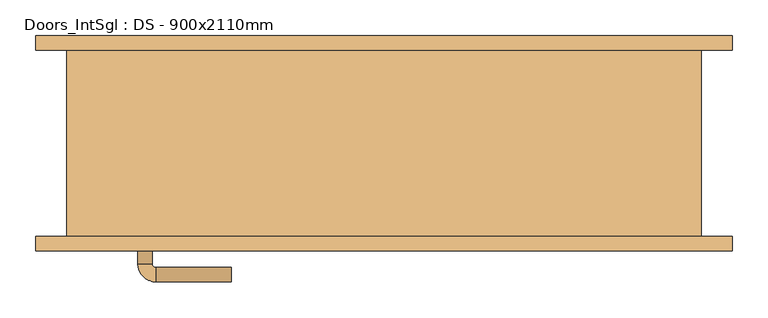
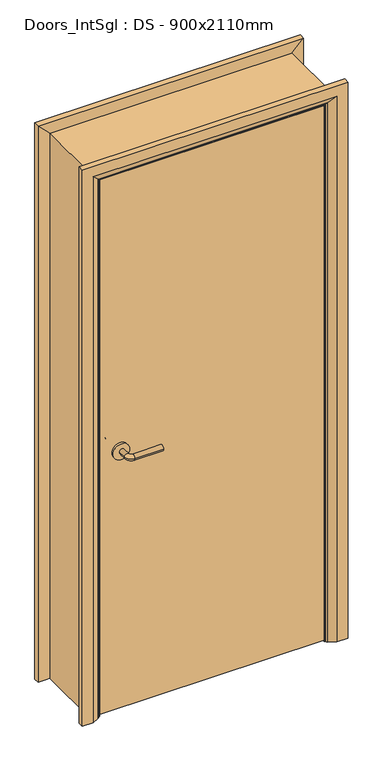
"""IFC4 building model written with IfcOpenShell, lengths in millimetres: door geometry, Doors_IntSgl : DS - 900x2110mm."""

import ifcopenshell
import ifcopenshell.guid

model = None  # the IFC model being written
_history = None  # IfcOwnerHistory: only IFC2X3 demands one
_inside = {}  # id of a spatial element -> (the spatial element, [elements in it])
_under = {}  # id of a project, library or spatial element -> (it, [spatial elements below it])
_declared = {}  # id of a project -> (the project, [libraries it declares])
_typed = {}  # id of a type object -> (the type object, [elements of that type])
_made_of = {}  # id of a material, layer set ... -> (it, [elements and type objects made of it])


def new_model(schema):
    """Start an empty IFC model of exactly this schema.

    Asked for "IFC4X3", IfcOpenShell would pick the latest addendum, in which some entities
    have other attributes; the version numbers below select the first issue.
    IFC2X3 requires an IfcOwnerHistory on every rooted entity: one is made here for all.
    """
    global model, _history
    if schema == "IFC4X3":
        model = ifcopenshell.file(schema_version=(4, 3, 0, 0))
    else:
        model = ifcopenshell.file(schema=schema)
    _inside.clear()
    _under.clear()
    _declared.clear()
    _typed.clear()
    _made_of.clear()
    _history = None
    if model.schema == "IFC2X3":
        org = make("IfcOrganization", Name="unknown")
        user = make(
            "IfcPersonAndOrganization",
            ThePerson=make("IfcPerson", FamilyName="unknown"),
            TheOrganization=org,
        )
        app = make(
            "IfcApplication",
            ApplicationDeveloper=org,
            Version="unknown",
            ApplicationFullName="unknown",
            ApplicationIdentifier="unknown",
        )
        _history = make(
            "IfcOwnerHistory",
            OwningUser=user,
            OwningApplication=app,
            ChangeAction="ADDED",
            CreationDate=0,
        )
    return model


def make(cls, **values):
    """One entity of the class cls with the attributes given. An attribute that is None is left unset."""
    return model.create_entity(
        cls, **{name: value for name, value in values.items() if value is not None}
    )


def rooted(cls, **values):
    """An entity with a GlobalId (a new one), such as an element, a storey or a relation."""
    return make(cls, GlobalId=ifcopenshell.guid.new(), OwnerHistory=_history, **values)


def si_unit(unit_type, name, prefix=None):
    """IfcSIUnit, for example si_unit("LENGTHUNIT", "METRE", prefix="MILLI")."""
    return make("IfcSIUnit", UnitType=unit_type, Prefix=prefix, Name=name)


def assignment(units):
    """IfcUnitAssignment: the units of a project."""
    return None if units is None else make("IfcUnitAssignment", Units=units)


def point(xyz):
    """IfcCartesianPoint."""
    return None if xyz is None else make("IfcCartesianPoint", Coordinates=xyz)


def direction(xyz):
    """IfcDirection."""
    return None if xyz is None else make("IfcDirection", DirectionRatios=xyz)


def frame(location, z_axis=None, x_axis=None):
    """IfcAxis2Placement3D, a coordinate frame: its origin and axes. An axis left out is left unset."""
    return make(
        "IfcAxis2Placement3D",
        Location=point(location),
        Axis=direction(z_axis),
        RefDirection=direction(x_axis),
    )


def frame_2d(location, x_axis=None):
    """IfcAxis2Placement2D, a coordinate frame in the plane: its origin and x axis."""
    return make(
        "IfcAxis2Placement2D", Location=point(location), RefDirection=direction(x_axis)
    )


def origin():
    """The frame at (0, 0, 0) with its axes left unset."""
    return frame((0.0, 0.0, 0.0))


def place(relative_to, where):
    """IfcLocalPlacement: puts the frame where relative to a parent placement (None: the world)."""
    return make(
        "IfcLocalPlacement", PlacementRelTo=relative_to, RelativePlacement=where
    )


def context(
    kind, dimensions, precision=None, world=None, true_north=None, identifier=None
):
    """IfcGeometricRepresentationContext, for example the 3D "Model" context."""
    return make(
        "IfcGeometricRepresentationContext",
        ContextIdentifier=identifier,
        ContextType=kind,
        CoordinateSpaceDimension=dimensions,
        Precision=precision,
        WorldCoordinateSystem=world,
        TrueNorth=true_north,
    )


def project(units=None, contexts=None):
    """IfcProject with its units and contexts."""
    return rooted(
        "IfcProject",
        Name="project",
        RepresentationContexts=contexts,
        UnitsInContext=assignment(units),
    )


def spatial(cls, under=None, at=None, **own):
    """A site, building, storey or space (cls), placed at a placement, below another one or the project."""
    s = rooted(cls, ObjectPlacement=at, **own)
    if under is not None:
        _under.setdefault(under.id(), (under, []))[1].append(s)
    return s


def polyline(points):
    """IfcPolyline through the points."""
    return make("IfcPolyline", Points=[point(p) for p in points])


def circle_curve(where, radius):
    """IfcCircle in the frame where."""
    return make("IfcCircle", Position=where, Radius=radius)


def ellipse_curve(where, semi_axis1, semi_axis2):
    """IfcEllipse in the frame where."""
    return make(
        "IfcEllipse", Position=where, SemiAxis1=semi_axis1, SemiAxis2=semi_axis2
    )


def trimmed(basis, trim1, trim2, sense, master):
    """IfcTrimmedCurve: the piece of a basis curve between two trims."""
    return make(
        "IfcTrimmedCurve",
        BasisCurve=basis,
        Trim1=trim1,
        Trim2=trim2,
        SenseAgreement=sense,
        MasterRepresentation=master,
    )


def segment(curve, same_sense, transition):
    """IfcCompositeCurveSegment."""
    return make(
        "IfcCompositeCurveSegment",
        Transition=transition,
        SameSense=same_sense,
        ParentCurve=curve,
    )


def composite_curve(segments, self_intersect=None):
    """IfcCompositeCurve: segments joined end to end."""
    return make("IfcCompositeCurve", Segments=segments, SelfIntersect=self_intersect)


def outline(outer, holes=None, kind="AREA"):
    """IfcArbitraryClosedProfileDef: a profile drawn as a closed curve; with holes, ...WithVoids."""
    if holes is None:
        return make("IfcArbitraryClosedProfileDef", ProfileType=kind, OuterCurve=outer)
    return make(
        "IfcArbitraryProfileDefWithVoids",
        ProfileType=kind,
        OuterCurve=outer,
        InnerCurves=holes,
    )


def extrude(swept, where, along, depth):
    """IfcExtrudedAreaSolid: the profile swept, set in the frame where, extruded along a direction by depth."""
    return make(
        "IfcExtrudedAreaSolid",
        SweptArea=swept,
        Position=where,
        ExtrudedDirection=direction(along),
        Depth=depth,
    )


def faces_of(points, faces, orient=None, outer=None):
    """IfcFace entities. A face is a list of loops; a loop is a list of indices into points, from 0.

    orient and outer hold one flag for each loop. By default every Orientation is true, the
    first loop of a face is its IfcFaceOuterBound and the others are IfcFaceBound.
    """
    made = []
    for i, loops in enumerate(faces):
        bounds = []
        for j, loop in enumerate(loops):
            is_outer = j == 0 if outer is None else outer[i][j]
            bounds.append(
                make(
                    "IfcFaceOuterBound" if is_outer else "IfcFaceBound",
                    Bound=make("IfcPolyLoop", Polygon=[points[k] for k in loop]),
                    Orientation=True if orient is None else orient[i][j],
                )
            )
        made.append(make("IfcFace", Bounds=bounds))
    return made


def faceted_brep(points, faces, orient=None, outer=None, voids=None):
    """IfcFacetedBrep: a solid bounded by flat faces; with voids (closed shells), ...WithVoids."""
    shared = [point(p) for p in points]
    hull = make("IfcClosedShell", CfsFaces=faces_of(shared, faces, orient, outer))
    if voids is None:
        return make("IfcFacetedBrep", Outer=hull)
    return make(
        "IfcFacetedBrepWithVoids",
        Outer=hull,
        Voids=[
            make(cls, CfsFaces=faces_of(shared, fs, o, b)) for cls, fs, o, b in voids
        ],
    )


def shape(context_of_items, identifier, shape_type, items):
    """IfcShapeRepresentation: the items that make up one representation, for example the "Body"."""
    return make(
        "IfcShapeRepresentation",
        ContextOfItems=context_of_items,
        RepresentationIdentifier=identifier,
        RepresentationType=shape_type,
        Items=items,
    )


def source(mapping_origin, context_of_items, identifier, shape_type, items):
    """IfcRepresentationMap: a shape defined once, which mapped items show again and again."""
    return make(
        "IfcRepresentationMap",
        MappingOrigin=mapping_origin,
        MappedRepresentation=shape(context_of_items, identifier, shape_type, items),
    )


def transform(
    local_origin,
    x_axis=None,
    y_axis=None,
    z_axis=None,
    scale=None,
    scale2=None,
    scale3=None,
    uniform=True,
):
    """IfcCartesianTransformationOperator3D, or its non-uniform kind. x_axis, y_axis, z_axis: its Axis1, 2, 3."""
    if uniform:
        return make(
            "IfcCartesianTransformationOperator3D",
            Axis1=direction(x_axis),
            Axis2=direction(y_axis),
            LocalOrigin=point(local_origin),
            Scale=scale,
            Axis3=direction(z_axis),
        )
    return make(
        "IfcCartesianTransformationOperator3DnonUniform",
        Axis1=direction(x_axis),
        Axis2=direction(y_axis),
        LocalOrigin=point(local_origin),
        Scale=scale,
        Axis3=direction(z_axis),
        Scale2=scale2,
        Scale3=scale3,
    )


def mapped(mapping_source, mapping_target):
    """IfcMappedItem: shows the shape of a source again, moved by a transform."""
    return make(
        "IfcMappedItem", MappingSource=mapping_source, MappingTarget=mapping_target
    )


def made_of(thing, what):
    """Note that an element or type object is made of a material, layer set ...; save() writes the relation."""
    if what is not None:
        _made_of.setdefault(what.id(), (what, []))[1].append(thing)
    return thing


def element(
    cls,
    number,
    at=None,
    inside=None,
    cuts=None,
    type_object=None,
    material=None,
    context=None,
    identifier="Body",
    shape_type=None,
    held_by="IfcProductDefinitionShape",
    body=None,
    shapes=None,
    **own,
):
    """One element of the class cls, such as IfcWall. Its Tag is "e" and its number.

    at: its placement. inside: the storey or other place that contains it. cuts: it is an
    opening in that element (IfcRelVoidsElement). A single representation is given by context,
    identifier, shape_type and body (its items); several are given by shapes. held_by: the class
    of the entity that holds the representations. save() writes the other relations.
    """
    e = rooted(cls, Tag="e%d" % number, ObjectPlacement=at, **own)
    if body is not None:
        shapes = [shape(context, identifier, shape_type, body)]
    if shapes is not None:
        e.Representation = make(held_by, Representations=shapes)
    if inside is not None:
        _inside.setdefault(inside.id(), (inside, []))[1].append(e)
    if cuts is not None:
        rooted(
            "IfcRelVoidsElement", RelatingBuildingElement=cuts, RelatedOpeningElement=e
        )
    if type_object is not None:
        _typed.setdefault(type_object.id(), (type_object, []))[1].append(e)
    return made_of(e, material)


def aggregate(whole, parts):
    """IfcRelAggregates: a whole, such as a stair, and the parts it consists of."""
    return rooted("IfcRelAggregates", RelatingObject=whole, RelatedObjects=parts)


def save(model, path):
    """Write the relations noted so far, then the file.

    IfcRelAggregates (storeys below a building ...), IfcRelContainedInSpatialStructure (elements
    in a storey), IfcRelDefinesByType, IfcRelAssociatesMaterial and IfcRelDeclares: one each for
    every whole, place, type object, material and project.
    """
    for whole, parts in _under.values():
        aggregate(whole, parts)
    for where, things in _inside.values():
        rooted(
            "IfcRelContainedInSpatialStructure",
            RelatedElements=things,
            RelatingStructure=where,
        )
    for kind, things in _typed.values():
        rooted("IfcRelDefinesByType", RelatedObjects=things, RelatingType=kind)
    for what, things in _made_of.values():
        rooted("IfcRelAssociatesMaterial", RelatedObjects=things, RelatingMaterial=what)
    for by, libraries in _declared.values():
        rooted("IfcRelDeclares", RelatingContext=by, RelatedDefinitions=libraries)
    model.write(path)


def plane_surface(at):
    """IfcPlane: the flat surface through the origin of the frame at, square to its z axis."""
    return make("IfcPlane", Position=at)


def cylinder_surface(at, radius):
    """IfcCylindricalSurface: all points at the distance radius from the z axis of the frame at."""
    return make("IfcCylindricalSurface", Position=at, Radius=radius)


def revolved_surface(curve, axis_point, axis_direction):
    """IfcSurfaceOfRevolution: the curve turned about the line through axis_point along axis_direction."""
    return make(
        "IfcSurfaceOfRevolution",
        SweptCurve=make("IfcArbitraryOpenProfileDef", ProfileType="CURVE", Curve=curve),
        AxisPosition=make("IfcAxis1Placement", Location=point(axis_point), Axis=direction(axis_direction)),
    )


def advanced_brep(points, edges, surfaces, faces):
    """IfcAdvancedBrep: a solid bounded by faces that lie on surfaces and meet in shared edges.

    An edge is (start, end): straight between two places in points (the first is 0);
    or (start, end, curve); or (start, end, curve, False) where it runs against its curve.
    A face is (place in surfaces, loops), or (place, loops, False) where it looks against
    its surface's normal. A loop lists edges by number (the first is 1), with a minus sign
    where the edge is run from its end to its start. The first loop is the outer one.
    """
    corners = [point(p) for p in points]
    vertices = [make("IfcVertexPoint", VertexGeometry=c) for c in corners]
    made = []
    for start, end, *more in edges:
        made.append(
            make(
                "IfcEdgeCurve",
                EdgeStart=vertices[start],
                EdgeEnd=vertices[end],
                EdgeGeometry=more[0] if more else make("IfcPolyline", Points=[corners[start], corners[end]]),
                SameSense=more[1] if len(more) > 1 else True,
            )
        )
    hull = []
    for where, loops, *sense in faces:
        bounds = []
        for j, loop in enumerate(loops):
            ring = [make("IfcOrientedEdge", EdgeElement=made[abs(k) - 1], Orientation=k > 0) for k in loop]
            bounds.append(
                make(
                    "IfcFaceOuterBound" if j == 0 else "IfcFaceBound",
                    Bound=make("IfcEdgeLoop", EdgeList=ring),
                    Orientation=True,
                )
            )
        hull.append(make("IfcAdvancedFace", Bounds=bounds, FaceSurface=surfaces[where], SameSense=sense[0] if sense else True))
    return make("IfcAdvancedBrep", Outer=make("IfcClosedShell", CfsFaces=hull))


def doors_intsgl_ds_900x2110mm_d1397bd0(model_context):
    return source(origin(), model_context, "Body", "SolidModel", [
        advanced_brep(
        [(-343.0, -84.0, 1000.0), (-323.0, -84.0, 1000.0), (-343.0, -54.0, 1000.0), (-323.0, -54.0, 1000.0), (-318.0, -49.0, 1000.0), (-318.0, -29.0, 1000.0), (-213.0, -29.0, 1000.0), (-213.0, -49.0, 1000.0)],
        [
            (0, 1, circle_curve(frame((-333.0, -84.0, 1000.0), z_axis=(0.0, -1.0, 0.0), x_axis=(1.0, 0.0, 0.0)), 10.0)),
            (1, 0, circle_curve(frame((-333.0, -84.0, 1000.0), z_axis=(0.0, -1.0, 0.0), x_axis=(1.0, 0.0, 0.0)), 10.0)),
            (0, 2),
            (2, 3, circle_curve(frame((-333.0, -54.0, 1000.0), z_axis=(0.0, -1.0, 0.0), x_axis=(1.0, 0.0, 0.0)), 10.0)),
            (3, 1),
            (3, 2, circle_curve(frame((-333.0, -54.0, 1000.0), z_axis=(0.0, -1.0, 0.0), x_axis=(1.0, 0.0, 0.0)), 10.0)),
            (4, 3, circle_curve(frame((-318.0, -54.0, 1000.0), z_axis=(0.0, 0.0, 1.0), x_axis=(-1.0, 0.0, 0.0)), 5.0)),
            (2, 5, circle_curve(frame((-318.0, -54.0, 1000.0), z_axis=(0.0, 0.0, -1.0), x_axis=(-1.0, 0.0, 0.0)), 25.0)),
            (5, 4, circle_curve(frame((-318.0, -39.0, 1000.0), z_axis=(-1.0, 0.0, 0.0), x_axis=(0.0, -1.0, 0.0)), 10.0)),
            (4, 5, circle_curve(frame((-318.0, -39.0, 1000.0), z_axis=(-1.0, 0.0, 0.0), x_axis=(0.0, -1.0, 0.0)), 10.0)),
            (6, 7, circle_curve(frame((-213.0, -39.0, 1000.0), z_axis=(1.0, 0.0, 0.0), x_axis=(0.0, -1.0, 0.0)), 10.0)),
            (7, 6, circle_curve(frame((-213.0, -39.0, 1000.0), z_axis=(1.0, 0.0, 0.0), x_axis=(0.0, -1.0, 0.0)), 10.0)),
            (5, 6),
            (7, 4),
        ],
        [
            plane_surface(frame((-333.0, -84.0, 1000.0), z_axis=(0.0, -1.0, 0.0), x_axis=(0.0, 0.0, 1.0))),
            cylinder_surface(frame((-333.0, -84.0, 1000.0), z_axis=(0.0, -1.0, 0.0), x_axis=(1.0, 0.0, 0.0)), 10.0),
            revolved_surface(trimmed(ellipse_curve(frame((-333.0, -54.0, 1000.0), z_axis=(0.0, -1.0, 0.0), x_axis=(1.0, 0.0, 0.0)), 10.0, 10.0), [point((-343.0, -54.0, 1000.0))], [point((-323.0, -54.0, 1000.0))], True, "CARTESIAN"), (-318.0, -54.0, 1000.0), (0.0, 0.0, -1.0)),
            revolved_surface(trimmed(ellipse_curve(frame((-333.0, -54.0, 1000.0), z_axis=(0.0, -1.0, 0.0), x_axis=(1.0, 0.0, 0.0)), 10.0, 10.0), [point((-323.0, -54.0, 1000.0))], [point((-343.0, -54.0, 1000.0))], True, "CARTESIAN"), (-318.0, -54.0, 1000.0), (0.0, 0.0, -1.0)),
            plane_surface(frame((-213.0, -39.0, 1000.0), z_axis=(1.0, 0.0, 0.0), x_axis=(0.0, 0.0, 1.0))),
            cylinder_surface(frame((-318.0, -39.0, 1000.0), z_axis=(-1.0, 0.0, 0.0), x_axis=(0.0, -1.0, 0.0)), 10.0),
        ],
        [
            (0, [[1, 2]]),
            (1, [[-1, 3, 4, 5]]),
            (1, [[-2, -5, 6, -3]]),
            (2, [[7, -4, 8, 9]]),
            (3, [[-8, -6, -7, 10]]),
            (4, [[11, 12]]),
            (5, [[-9, 13, -12, 14]]),
            (5, [[-10, -14, -11, -13]]),
        ],
    ),
        extrude(outline(composite_curve([segment(trimmed(circle_curve(frame_2d((1000.0, -335.5)), 30.0), [point((1000.0, -365.5))], [point((1000.0, -305.5))], False, "CARTESIAN"), True, "CONTINUOUS"), segment(trimmed(circle_curve(frame_2d((1000.0, -335.5)), 30.0), [point((1000.0, -305.5))], [point((1000.0, -365.5))], False, "CARTESIAN"), True, "CONTINUOUS")], self_intersect=False)), frame((0.0, -92.0, 0.0), z_axis=(0.0, 1.0, 0.0), x_axis=(0.0, 0.0, 1.0)), (0.0, 0.0, 1.0), 8.0),
        advanced_brep(
        [(-343.0, -138.0, 1000.0), (-323.0, -138.0, 1000.0), (-323.0, -168.0, 1000.0), (-343.0, -168.0, 1000.0), (-318.0, -173.0, 1000.0), (-318.0, -193.0, 1000.0), (-213.0, -193.0, 1000.0), (-213.0, -173.0, 1000.0)],
        [
            (0, 1, circle_curve(frame((-333.0, -138.0, 1000.0), z_axis=(0.0, 1.0, 0.0), x_axis=(1.0, 0.0, 0.0)), 10.0)),
            (1, 0, circle_curve(frame((-333.0, -138.0, 1000.0), z_axis=(0.0, 1.0, 0.0), x_axis=(1.0, 0.0, 0.0)), 10.0)),
            (1, 2),
            (2, 3, circle_curve(frame((-333.0, -168.0, 1000.0), z_axis=(0.0, 1.0, 0.0), x_axis=(1.0, 0.0, 0.0)), 10.0)),
            (3, 0),
            (3, 2, circle_curve(frame((-333.0, -168.0, 1000.0), z_axis=(0.0, 1.0, 0.0), x_axis=(1.0, 0.0, 0.0)), 10.0)),
            (4, 5, circle_curve(frame((-318.0, -183.0, 1000.0), z_axis=(-1.0, 0.0, 0.0), x_axis=(0.0, 1.0, 0.0)), 10.0)),
            (5, 3, circle_curve(frame((-318.0, -168.0, 1000.0), z_axis=(0.0, 0.0, -1.0), x_axis=(-1.0, 0.0, 0.0)), 25.0)),
            (2, 4, circle_curve(frame((-318.0, -168.0, 1000.0), z_axis=(0.0, 0.0, 1.0), x_axis=(-1.0, 0.0, 0.0)), 5.0)),
            (5, 4, circle_curve(frame((-318.0, -183.0, 1000.0), z_axis=(-1.0, 0.0, 0.0), x_axis=(0.0, 1.0, 0.0)), 10.0)),
            (6, 7, circle_curve(frame((-213.0, -183.0, 1000.0), z_axis=(1.0, 0.0, 0.0), x_axis=(0.0, 1.0, 0.0)), 10.0)),
            (7, 6, circle_curve(frame((-213.0, -183.0, 1000.0), z_axis=(1.0, 0.0, 0.0), x_axis=(0.0, 1.0, 0.0)), 10.0)),
            (4, 7),
            (6, 5),
        ],
        [
            plane_surface(frame((-333.0, -138.0, 1000.0), z_axis=(0.0, 1.0, 0.0), x_axis=(0.0, 0.0, 1.0))),
            cylinder_surface(frame((-333.0, -138.0, 1000.0), z_axis=(0.0, 1.0, 0.0), x_axis=(1.0, 0.0, 0.0)), 10.0),
            revolved_surface(trimmed(ellipse_curve(frame((-333.0, -168.0, 1000.0), z_axis=(0.0, -1.0, 0.0), x_axis=(1.0, 0.0, 0.0)), 10.0, 10.0), [point((-343.0, -168.0, 1000.0))], [point((-323.0, -168.0, 1000.0))], True, "CARTESIAN"), (-318.0, -168.0, 1000.0), (0.0, 0.0, -1.0)),
            revolved_surface(trimmed(ellipse_curve(frame((-333.0, -168.0, 1000.0), z_axis=(0.0, -1.0, 0.0), x_axis=(1.0, 0.0, 0.0)), 10.0, 10.0), [point((-323.0, -168.0, 1000.0))], [point((-343.0, -168.0, 1000.0))], True, "CARTESIAN"), (-318.0, -168.0, 1000.0), (0.0, 0.0, -1.0)),
            plane_surface(frame((-213.0, -183.0, 1000.0), z_axis=(1.0, 0.0, 0.0), x_axis=(0.0, 0.0, 1.0))),
            cylinder_surface(frame((-318.0, -183.0, 1000.0), z_axis=(-1.0, 0.0, 0.0), x_axis=(0.0, 1.0, 0.0)), 10.0),
        ],
        [
            (0, [[1, 2]]),
            (1, [[3, 4, 5, -2]]),
            (1, [[-5, 6, -3, -1]]),
            (2, [[7, 8, -4, 9]]),
            (3, [[10, -9, -6, -8]]),
            (4, [[11, 12]]),
            (5, [[13, -11, 14, -7]]),
            (5, [[-14, -12, -13, -10]]),
        ],
    ),
        extrude(outline(composite_curve([segment(trimmed(circle_curve(frame_2d((1000.0, -335.5)), 30.0), [point((1000.0, -365.5))], [point((1000.0, -305.5))], False, "CARTESIAN"), True, "CONTINUOUS"), segment(trimmed(circle_curve(frame_2d((1000.0, -335.5)), 30.0), [point((1000.0, -305.5))], [point((1000.0, -365.5))], False, "CARTESIAN"), True, "CONTINUOUS")], self_intersect=False)), frame((0.0, -138.0, 0.0), z_axis=(0.0, 1.0, 0.0), x_axis=(0.0, 0.0, 1.0)), (0.0, 0.0, 1.0), 8.0),
        extrude(outline(polyline([(408.0, -92.0), (408.0, -130.0), (-408.0, -130.0), (-408.0, -92.0), (408.0, -92.0)])), frame((0.0, 0.0, 8.0), z_axis=(0.0, 0.0, 1.0), x_axis=(1.0, 0.0, 0.0)), (0.0, 0.0, 1.0), 2060.0),
        advanced_brep(
        [(485.0, -150.0, 0.0), (445.0, -150.0, 0.0), (419.0, -136.0, 0.0), (415.0, -130.0, 0.0), (485.0, -130.0, 0.0), (485.0, -130.0, 2145.0), (485.0, -150.0, 2145.0), (415.0, -130.0, 2075.0), (-415.0, -130.0, 2075.0), (-415.0, -130.0, 0.0), (-485.0, -130.0, 0.0), (-485.0, -130.0, 2145.0), (419.0, -136.0, 2079.0), (445.0, -150.0, 2105.0), (-485.0, -150.0, 2145.0), (-485.0, -150.0, 0.0), (-445.0, -150.0, 0.0), (-445.0, -150.0, 2105.0), (-419.0, -136.0, 0.0), (-419.0, -136.0, 2079.0)],
        [
            (0, 1),
            (1, 2),
            (2, 3, circle_curve(frame((423.0, -129.0, 0.0), z_axis=(0.0, 0.0, -1.0), x_axis=(1.0, 0.0, 0.0)), 8.0622577)),
            (3, 4),
            (4, 0),
            (4, 5),
            (5, 6),
            (6, 0),
            (3, 7),
            (7, 8),
            (8, 9),
            (9, 10),
            (10, 11),
            (11, 5),
            (2, 12),
            (12, 7, ellipse_curve(frame((423.0, -129.0, 2083.0), z_axis=(0.7071067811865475, 0.0, -0.7071067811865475), x_axis=(-0.7071067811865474, 0.0, -0.7071067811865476)), 11.4017543, 8.0622577)),
            (1, 13),
            (13, 12),
            (6, 14),
            (14, 15),
            (15, 16),
            (16, 17),
            (17, 13),
            (10, 15),
            (14, 11),
            (9, 18, circle_curve(frame((-423.0, -129.0, 0.0), z_axis=(0.0, 0.0, -1.0), x_axis=(-1.0, 0.0, 0.0)), 8.0622577)),
            (18, 16),
            (19, 18),
            (8, 19, ellipse_curve(frame((-423.0, -129.0, 2083.0), z_axis=(-0.7071067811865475, 0.0, -0.7071067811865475), x_axis=(-0.7071067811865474, 0.0, 0.7071067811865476)), 11.4017543, 8.0622577)),
            (19, 17),
            (12, 19),
        ],
        [
            plane_surface(frame((415.0, -130.0, 0.0), z_axis=(0.0, 0.0, -1.0), x_axis=(0.0, 1.0, 0.0))),
            plane_surface(frame((485.0, -150.0, 0.0), z_axis=(1.0, 0.0, 0.0), x_axis=(0.0, 0.0, 1.0))),
            plane_surface(frame((485.0, -130.0, 0.0), z_axis=(0.0, 1.0, 0.0), x_axis=(0.0, 0.0, 1.0))),
            cylinder_surface(frame((423.0, -129.0, 0.0), z_axis=(0.0, 0.0, -1.0), x_axis=(1.0, 0.0, 0.0)), 8.0622577),
            plane_surface(frame((419.0, -136.0, 0.0), z_axis=(-0.4740998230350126, -0.880471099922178, 0.0), x_axis=(0.0, 0.0, 1.0))),
            plane_surface(frame((445.0, -150.0, 0.0), z_axis=(0.0, -1.0, 0.0), x_axis=(0.0, 0.0, 1.0))),
            plane_surface(frame((-485.0, -150.0, 2145.0), z_axis=(-1.0, 0.0, 0.0), x_axis=(0.0, 0.0, -1.0))),
            plane_surface(frame((-415.0, -130.0, 0.0), z_axis=(0.0, 0.0, -1.0), x_axis=(0.0, 1.0, 0.0))),
            cylinder_surface(frame((-423.0, -129.0, 2075.0), z_axis=(0.0, 0.0, 1.0), x_axis=(-1.0, 0.0, 0.0)), 8.0622577),
            plane_surface(frame((-419.0, -136.0, 2079.0), z_axis=(0.47409982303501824, -0.8804710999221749, 0.0), x_axis=(0.0, 0.0, -1.0))),
            plane_surface(frame((485.0, -150.0, 2145.0), z_axis=(0.0, 0.0, 1.0), x_axis=(-1.0, 0.0, 0.0))),
            cylinder_surface(frame((415.0, -129.0, 2083.0), z_axis=(1.0, 0.0, 0.0), x_axis=(0.0, 0.0, 1.0)), 8.0622577),
            plane_surface(frame((419.0, -136.0, 2079.0), z_axis=(0.0, -0.8804710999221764, -0.4740998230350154), x_axis=(-1.0, 0.0, 0.0))),
        ],
        [
            (0, [[1, 2, 3, 4, 5]]),
            (1, [[6, 7, 8, -5]]),
            (2, [[9, 10, 11, 12, 13, 14, -6, -4]]),
            (3, [[15, 16, -9, -3]]),
            (4, [[17, 18, -15, -2]]),
            (5, [[-8, 19, 20, 21, 22, 23, -17, -1]]),
            (6, [[-13, 24, -20, 25]]),
            (7, [[-24, -12, 26, 27, -21]]),
            (8, [[28, -26, -11, 29]]),
            (9, [[-22, -27, -28, 30]]),
            (10, [[-14, -25, -19, -7]]),
            (11, [[31, -29, -10, -16]]),
            (12, [[-23, -30, -31, -18]]),
        ],
    ),
        extrude(outline(polyline([(0.0, -391.0), (2051.0, -391.0), (2051.0, 391.0), (0.0, 391.0), (0.0, 410.0), (2070.0, 410.0), (2070.0, -410.0), (0.0, -410.0), (0.0, -391.0)])), frame((0.0, -90.0, 0.0), z_axis=(0.0, 1.0, 0.0), x_axis=(0.0, 0.0, 1.0)), (0.0, 0.0, 1.0), 32.0),
        advanced_brep(
        [(-485.0, 150.0, 0.0), (-445.0, 150.0, 0.0), (-419.0, 136.0, 0.0), (-415.0, 130.0, 0.0), (-485.0, 130.0, 0.0), (-485.0, 130.0, 2145.0), (-485.0, 150.0, 2145.0), (-415.0, 130.0, 2075.0), (-419.0, 136.0, 2079.0), (-445.0, 150.0, 2105.0), (485.0, 150.0, 0.0), (485.0, 130.0, 0.0), (415.0, 130.0, 0.0), (419.0, 136.0, 0.0), (445.0, 150.0, 0.0), (485.0, 150.0, 2145.0), (445.0, 150.0, 2105.0), (419.0, 136.0, 2079.0), (415.0, 130.0, 2075.0), (485.0, 130.0, 2145.0)],
        [
            (0, 1),
            (1, 2),
            (2, 3, circle_curve(frame((-423.0, 129.0, 0.0), z_axis=(0.0, 0.0, -1.0), x_axis=(-1.0, 0.0, 0.0)), 8.0622577)),
            (3, 4),
            (4, 0),
            (4, 5),
            (5, 6),
            (6, 0),
            (3, 7),
            (7, 5),
            (2, 8),
            (8, 7, ellipse_curve(frame((-423.0, 129.0, 2083.0), z_axis=(-0.7071067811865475, 0.0, -0.7071067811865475), x_axis=(0.7071067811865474, 0.0, -0.7071067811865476)), 11.4017543, 8.0622577)),
            (1, 9),
            (9, 8),
            (6, 9),
            (10, 11),
            (11, 12),
            (12, 13, circle_curve(frame((423.0, 129.0, 0.0), z_axis=(0.0, 0.0, -1.0), x_axis=(1.0, 0.0, 0.0)), 8.0622577)),
            (13, 14),
            (14, 10),
            (15, 10),
            (14, 16),
            (16, 15),
            (13, 17),
            (17, 16),
            (12, 18),
            (18, 17, ellipse_curve(frame((423.0, 129.0, 2083.0), z_axis=(0.7071067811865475, 0.0, -0.7071067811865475), x_axis=(0.7071067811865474, 0.0, 0.7071067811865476)), 11.4017543, 8.0622577)),
            (11, 19),
            (19, 18),
            (15, 19),
            (5, 19),
            (15, 6),
            (7, 18),
            (8, 17),
            (9, 16),
        ],
        [
            plane_surface(frame((-415.0, 202.8010989, 0.0), z_axis=(0.0, 0.0, -1.0), x_axis=(1.0, 0.0, 0.0))),
            plane_surface(frame((-485.0, 150.0, 0.0), z_axis=(-1.0, 0.0, 0.0), x_axis=(0.0, 0.0, 1.0))),
            plane_surface(frame((-485.0, 130.0, 0.0), z_axis=(0.0, -1.0, 0.0), x_axis=(0.0, 0.0, 1.0))),
            cylinder_surface(frame((-423.0, 129.0, 0.0), z_axis=(0.0, 0.0, -1.0), x_axis=(-1.0, 0.0, 0.0)), 8.0622577),
            plane_surface(frame((-419.0, 136.0, 0.0), z_axis=(0.4740998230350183, 0.8804710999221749, 0.0), x_axis=(0.0, 0.0, 1.0))),
            plane_surface(frame((-445.0, 150.0, 0.0), z_axis=(0.0, 1.0, 0.0), x_axis=(0.0, 0.0, 1.0))),
            plane_surface(frame((415.0, 202.8010989, 0.0), z_axis=(0.0, 0.0, -1.0), x_axis=(-1.0, 0.0, 0.0))),
            plane_surface(frame((445.0, 150.0, 2105.0), z_axis=(0.0, 1.0, 0.0), x_axis=(0.0, 0.0, -1.0))),
            plane_surface(frame((419.0, 136.0, 2079.0), z_axis=(-0.4740998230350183, 0.8804710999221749, 0.0), x_axis=(0.0, 0.0, -1.0))),
            cylinder_surface(frame((423.0, 129.0, 2075.0), z_axis=(0.0, 0.0, 1.0), x_axis=(1.0, 0.0, 0.0)), 8.0622577),
            plane_surface(frame((485.0, 130.0, 2145.0), z_axis=(0.0, -1.0, 0.0), x_axis=(0.0, 0.0, -1.0))),
            plane_surface(frame((485.0, 150.0, 2145.0), z_axis=(1.0, 0.0, 0.0), x_axis=(0.0, 0.0, -1.0))),
            plane_surface(frame((-485.0, 150.0, 2145.0), z_axis=(0.0, 0.0, 1.0), x_axis=(1.0, 0.0, 0.0))),
            plane_surface(frame((-485.0, 130.0, 2145.0), z_axis=(0.0, -1.0, 0.0), x_axis=(1.0, 0.0, 0.0))),
            cylinder_surface(frame((-415.0, 129.0, 2083.0), z_axis=(-1.0, 0.0, 0.0), x_axis=(0.0, 0.0, 1.0)), 8.0622577),
            plane_surface(frame((-419.0, 136.0, 2079.0), z_axis=(0.0, 0.8804710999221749, -0.4740998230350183), x_axis=(1.0, 0.0, 0.0))),
            plane_surface(frame((-445.0, 150.0, 2105.0), z_axis=(0.0, 1.0, 0.0), x_axis=(1.0, 0.0, 0.0))),
        ],
        [
            (0, [[1, 2, 3, 4, 5]]),
            (1, [[6, 7, 8, -5]]),
            (2, [[9, 10, -6, -4]]),
            (3, [[11, 12, -9, -3]]),
            (4, [[13, 14, -11, -2]]),
            (5, [[-8, 15, -13, -1]]),
            (6, [[16, 17, 18, 19, 20]]),
            (7, [[21, -20, 22, 23]]),
            (8, [[-22, -19, 24, 25]]),
            (9, [[-24, -18, 26, 27]]),
            (10, [[-26, -17, 28, 29]]),
            (11, [[-28, -16, -21, 30]]),
            (12, [[31, -30, 32, -7]]),
            (13, [[33, -29, -31, -10]]),
            (14, [[34, -27, -33, -12]]),
            (15, [[35, -25, -34, -14]]),
            (16, [[-32, -23, -35, -15]]),
        ],
    ),
        faceted_brep([(-410.0, -130.0, 0.0), (-442.0, -130.0, 0.0), (-442.0, 130.0, 0.0), (-410.0, 130.0, 0.0), (-410.0, 130.0, 2070.0), (-410.0, -130.0, 2070.0), (-442.0, 130.0, 2102.0), (-442.0, -130.0, 2102.0), (410.0, -130.0, 0.0), (410.0, 130.0, 0.0), (442.0, 130.0, 0.0), (442.0, -130.0, 0.0), (410.0, -130.0, 2070.0), (442.0, -130.0, 2102.0), (442.0, 130.0, 2102.0), (410.0, 130.0, 2070.0)], [[[0, 1, 2, 3]], [[3, 4, 5, 0]], [[2, 6, 4, 3]], [[1, 7, 6, 2]], [[0, 5, 7, 1]], [[8, 9, 10, 11]], [[12, 8, 11, 13]], [[13, 11, 10, 14]], [[14, 10, 9, 15]], [[15, 9, 8, 12]], [[4, 15, 12, 5]], [[6, 14, 15, 4]], [[7, 13, 14, 6]], [[5, 12, 13, 7]]]),
    ])


if __name__ == "__main__":
    model = new_model("IFC4")
    model_context = context("Model", 3, world=origin())
    ifc_project = project(units=[si_unit("LENGTHUNIT", "METRE", prefix="MILLI")], contexts=[model_context])
    site = spatial("IfcSite", under=ifc_project)
    building = spatial("IfcBuilding", under=site)
    placement = place(None, origin())
    doors_intsgl_ds_900x2110mm_shape = doors_intsgl_ds_900x2110mm_d1397bd0(model_context)
    element("IfcDoor", 1, ObjectType="Doors_IntSgl : DS - 900x2110mm", at=placement, inside=building, context=model_context, shape_type="MappedRepresentation", body=[
        mapped(doors_intsgl_ds_900x2110mm_shape, transform((0.0, 0.0, 0.0), x_axis=(1.0, 0.0, 0.0), y_axis=(0.0, 1.0, 0.0), z_axis=(0.0, 0.0, 1.0))),
    ])
    save(model, "model.ifc")
